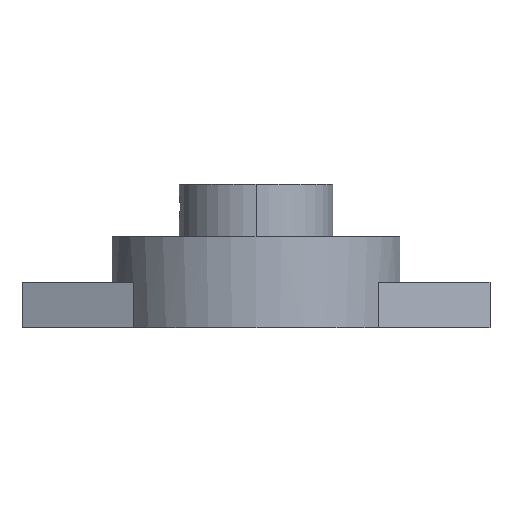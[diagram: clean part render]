
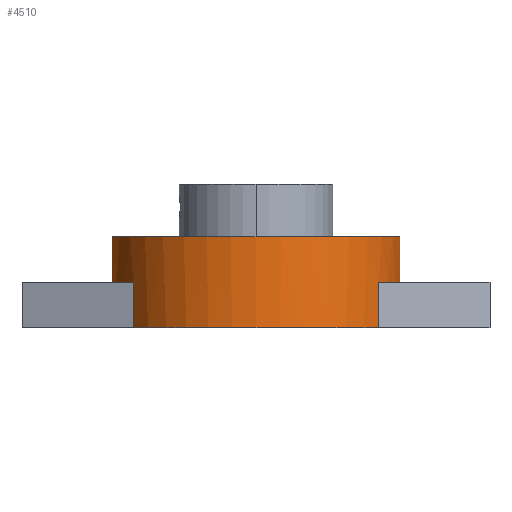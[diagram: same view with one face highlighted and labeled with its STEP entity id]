
A CAD part, left-side view. The second image highlights one B-rep face of the part: STEP entity #4510.
In plain terms, the highlighted cylindrical face has radius 21 mm (diameter 42 mm), a partial arc.
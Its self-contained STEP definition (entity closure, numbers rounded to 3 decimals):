
#334 = ORIENTED_EDGE ( 'NONE', *, *, #1278, .F. ) ;
#600 = VECTOR ( 'NONE', #4426, 1000. ) ;
#605 = VERTEX_POINT ( 'NONE', #1070 ) ;
#713 = DIRECTION ( 'NONE',  ( 0., -1., 0. ) ) ;
#739 = LINE ( 'NONE', #5029, #2384 ) ;
#786 = EDGE_CURVE ( 'NONE', #8885, #10217, #3234, .T. ) ;
#851 = CARTESIAN_POINT ( 'NONE',  ( 0., 0., 13. ) ) ;
#1070 = CARTESIAN_POINT ( 'NONE',  ( -11.477, -17.586, 6.5 ) ) ;
#1090 = VECTOR ( 'NONE', #4237, 1000. ) ;
#1278 = EDGE_CURVE ( 'NONE', #605, #9802, #8161, .T. ) ;
#1341 = EDGE_LOOP ( 'NONE', ( #7508, #5634, #2723, #10086, #334, #6465, #7431, #11521 ) ) ;
#1494 = AXIS2_PLACEMENT_3D ( 'NONE', #5332, #7310, #13883 ) ;
#1693 = EDGE_CURVE ( 'NONE', #13385, #6791, #11929, .T. ) ;
#1892 = DIRECTION ( 'NONE',  ( 0., 0., 1. ) ) ;
#2002 = CARTESIAN_POINT ( 'NONE',  ( -4.116, 20.593, 13. ) ) ;
#2384 = VECTOR ( 'NONE', #3767, 1000. ) ;
#2699 = DIRECTION ( 'NONE',  ( 0., -1., 0. ) ) ;
#2723 = ORIENTED_EDGE ( 'NONE', *, *, #1693, .F. ) ;
#2776 = VERTEX_POINT ( 'NONE', #13693 ) ;
#2815 = DIRECTION ( 'NONE',  ( 0., -1., 0. ) ) ;
#3021 = EDGE_CURVE ( 'NONE', #8885, #2776, #3443, .T. ) ;
#3074 = CARTESIAN_POINT ( 'NONE',  ( -11.477, -17.586, 0. ) ) ;
#3234 = CIRCLE ( 'NONE', #6602, 21. ) ;
#3288 = CIRCLE ( 'NONE', #11387, 21. ) ;
#3443 = LINE ( 'NONE', #12977, #600 ) ;
#3478 = DIRECTION ( 'NONE',  ( 0., 0., -1. ) ) ;
#3767 = DIRECTION ( 'NONE',  ( 0., 0., 1. ) ) ;
#3808 = CARTESIAN_POINT ( 'NONE',  ( 0., 0., 6.5 ) ) ;
#4237 = DIRECTION ( 'NONE',  ( 0., 0., 1. ) ) ;
#4426 = DIRECTION ( 'NONE',  ( 0., 0., -1. ) ) ;
#4510 = ADVANCED_FACE ( 'NONE', ( #4602 ), #4534, .T. ) ;
#4534 = CYLINDRICAL_SURFACE ( 'NONE', #8920, 21. ) ;
#4602 = FACE_OUTER_BOUND ( 'NONE', #1341, .T. ) ;
#4884 = DIRECTION ( 'NONE',  ( 0., 0., -1. ) ) ;
#5029 = CARTESIAN_POINT ( 'NONE',  ( -4.116, -20.593, 9.75 ) ) ;
#5332 = CARTESIAN_POINT ( 'NONE',  ( 0., 0., 6.5 ) ) ;
#5634 = ORIENTED_EDGE ( 'NONE', *, *, #12450, .F. ) ;
#5792 = CARTESIAN_POINT ( 'NONE',  ( -11.477, 17.586, 0. ) ) ;
#5871 = DIRECTION ( 'NONE',  ( 0., -1., 0. ) ) ;
#6465 = ORIENTED_EDGE ( 'NONE', *, *, #7906, .F. ) ;
#6565 = CARTESIAN_POINT ( 'NONE',  ( -11.477, 17.586, 3.25 ) ) ;
#6602 = AXIS2_PLACEMENT_3D ( 'NONE', #851, #1892, #2815 ) ;
#6791 = VERTEX_POINT ( 'NONE', #7472 ) ;
#7310 = DIRECTION ( 'NONE',  ( 0., 0., -1. ) ) ;
#7431 = ORIENTED_EDGE ( 'NONE', *, *, #9709, .T. ) ;
#7472 = CARTESIAN_POINT ( 'NONE',  ( -11.477, 17.586, 6.5 ) ) ;
#7508 = ORIENTED_EDGE ( 'NONE', *, *, #3021, .T. ) ;
#7906 = EDGE_CURVE ( 'NONE', #10694, #605, #10944, .T. ) ;
#8121 = CARTESIAN_POINT ( 'NONE',  ( 0., 0., 0. ) ) ;
#8161 = LINE ( 'NONE', #10342, #10467 ) ;
#8223 = AXIS2_PLACEMENT_3D ( 'NONE', #3808, #10570, #713 ) ;
#8838 = CARTESIAN_POINT ( 'NONE',  ( 0., 0., 6.5 ) ) ;
#8885 = VERTEX_POINT ( 'NONE', #2002 ) ;
#8920 = AXIS2_PLACEMENT_3D ( 'NONE', #8838, #3478, #5871 ) ;
#9709 = EDGE_CURVE ( 'NONE', #10694, #10217, #739, .T. ) ;
#9729 = CARTESIAN_POINT ( 'NONE',  ( -4.116, -20.593, 13. ) ) ;
#9802 = VERTEX_POINT ( 'NONE', #3074 ) ;
#10057 = EDGE_CURVE ( 'NONE', #9802, #13385, #3288, .T. ) ;
#10086 = ORIENTED_EDGE ( 'NONE', *, *, #10057, .F. ) ;
#10217 = VERTEX_POINT ( 'NONE', #9729 ) ;
#10342 = CARTESIAN_POINT ( 'NONE',  ( -11.477, -17.586, 3.25 ) ) ;
#10467 = VECTOR ( 'NONE', #11464, 1000. ) ;
#10570 = DIRECTION ( 'NONE',  ( 0., 0., -1. ) ) ;
#10694 = VERTEX_POINT ( 'NONE', #13291 ) ;
#10919 = CIRCLE ( 'NONE', #8223, 21. ) ;
#10944 = CIRCLE ( 'NONE', #1494, 21. ) ;
#11387 = AXIS2_PLACEMENT_3D ( 'NONE', #8121, #4884, #2699 ) ;
#11464 = DIRECTION ( 'NONE',  ( 0., 0., -1. ) ) ;
#11521 = ORIENTED_EDGE ( 'NONE', *, *, #786, .F. ) ;
#11929 = LINE ( 'NONE', #6565, #1090 ) ;
#12450 = EDGE_CURVE ( 'NONE', #6791, #2776, #10919, .T. ) ;
#12977 = CARTESIAN_POINT ( 'NONE',  ( -4.116, 20.593, 9.75 ) ) ;
#13291 = CARTESIAN_POINT ( 'NONE',  ( -4.116, -20.593, 6.5 ) ) ;
#13385 = VERTEX_POINT ( 'NONE', #5792 ) ;
#13693 = CARTESIAN_POINT ( 'NONE',  ( -4.116, 20.593, 6.5 ) ) ;
#13883 = DIRECTION ( 'NONE',  ( 0., -1., 0. ) ) ;
